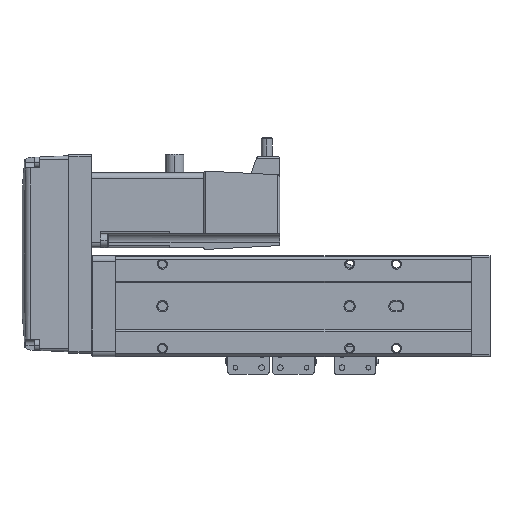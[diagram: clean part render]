
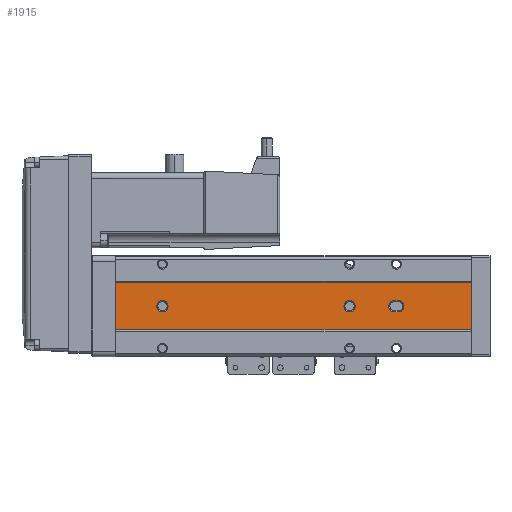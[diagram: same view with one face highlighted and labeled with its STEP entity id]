
A CAD part, front view. The second image highlights one B-rep face of the part: STEP entity #1915.
In plain terms, the highlighted planar face has unit normal (0, -1, 0).
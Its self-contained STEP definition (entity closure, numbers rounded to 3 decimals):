
#3 = AXIS2_PLACEMENT_3D ( 'NONE', #29551, #21387, #12986 ) ;
#64 = CIRCLE ( 'NONE', #4008, 3. ) ;
#631 = ORIENTED_EDGE ( 'NONE', *, *, #10654, .T. ) ;
#677 = CARTESIAN_POINT ( 'NONE',  ( -61.181, -208.497, 190. ) ) ;
#883 = DIRECTION ( 'NONE',  ( 0., 0., -1. ) ) ;
#1683 = CARTESIAN_POINT ( 'NONE',  ( -55.181, -208.497, 41. ) ) ;
#1817 = EDGE_LOOP ( 'NONE', ( #17812, #34451 ) ) ;
#1915 = ADVANCED_FACE ( 'NONE', ( #33026, #11412, #13104, #31272 ), #26135, .F. ) ;
#2218 = DIRECTION ( 'NONE',  ( 0., 1., 0. ) ) ;
#2529 = ORIENTED_EDGE ( 'NONE', *, *, #12096, .T. ) ;
#3496 = CARTESIAN_POINT ( 'NONE',  ( -70.681, -208.497, 190. ) ) ;
#3671 = AXIS2_PLACEMENT_3D ( 'NONE', #14022, #19776, #30727 ) ;
#3740 = VERTEX_POINT ( 'NONE', #8410 ) ;
#3901 = DIRECTION ( 'NONE',  ( 0., 0., 1. ) ) ;
#3955 = CIRCLE ( 'NONE', #16321, 3. ) ;
#4008 = AXIS2_PLACEMENT_3D ( 'NONE', #30021, #21237, #7588 ) ;
#4010 = DIRECTION ( 'NONE',  ( 0., 1., 0. ) ) ;
#4220 = EDGE_CURVE ( 'NONE', #4593, #13682, #24618, .T. ) ;
#4593 = VERTEX_POINT ( 'NONE', #35048 ) ;
#4668 = VECTOR ( 'NONE', #883, 1000. ) ;
#4774 = EDGE_LOOP ( 'NONE', ( #631, #12391 ) ) ;
#4899 = ORIENTED_EDGE ( 'NONE', *, *, #12944, .T. ) ;
#4950 = DIRECTION ( 'NONE',  ( 0., 1., 0. ) ) ;
#4968 = VERTEX_POINT ( 'NONE', #3496 ) ;
#5754 = AXIS2_PLACEMENT_3D ( 'NONE', #10060, #2218, #32159 ) ;
#7588 = DIRECTION ( 'NONE',  ( 0., 0., 1. ) ) ;
#8080 = EDGE_LOOP ( 'NONE', ( #24804, #20461, #18492, #4899 ) ) ;
#8410 = CARTESIAN_POINT ( 'NONE',  ( -45.681, -208.497, 190. ) ) ;
#8480 = DIRECTION ( 'NONE',  ( 0., 0., -1. ) ) ;
#8787 = CARTESIAN_POINT ( 'NONE',  ( -45.681, -208.497, 0. ) ) ;
#9439 = DIRECTION ( 'NONE',  ( 0., 0., 1. ) ) ;
#9462 = CIRCLE ( 'NONE', #5754, 3. ) ;
#9959 = DIRECTION ( 'NONE',  ( 0., 0., -1. ) ) ;
#10057 = CARTESIAN_POINT ( 'NONE',  ( -45.681, -208.497, 190. ) ) ;
#10060 = CARTESIAN_POINT ( 'NONE',  ( -58.181, -208.497, 39. ) ) ;
#10197 = VERTEX_POINT ( 'NONE', #21916 ) ;
#10654 = EDGE_CURVE ( 'NONE', #10197, #26654, #25378, .T. ) ;
#10674 = AXIS2_PLACEMENT_3D ( 'NONE', #18477, #4950, #31996 ) ;
#10780 = CARTESIAN_POINT ( 'NONE',  ( -70.681, -208.497, 0. ) ) ;
#10933 = EDGE_CURVE ( 'NONE', #3740, #13682, #34101, .T. ) ;
#11412 = FACE_BOUND ( 'NONE', #1817, .T. ) ;
#11705 = EDGE_CURVE ( 'NONE', #24990, #33212, #16196, .T. ) ;
#12066 = DIRECTION ( 'NONE',  ( 0., 1., 0. ) ) ;
#12096 = EDGE_CURVE ( 'NONE', #33212, #28746, #29219, .T. ) ;
#12391 = ORIENTED_EDGE ( 'NONE', *, *, #17855, .T. ) ;
#12432 = VERTEX_POINT ( 'NONE', #13193 ) ;
#12944 = EDGE_CURVE ( 'NONE', #4968, #4593, #15388, .T. ) ;
#12986 = DIRECTION ( 'NONE',  ( 0., 0., 1. ) ) ;
#13104 = FACE_BOUND ( 'NONE', #24194, .T. ) ;
#13193 = CARTESIAN_POINT ( 'NONE',  ( -58.181, -208.497, 62. ) ) ;
#13682 = VERTEX_POINT ( 'NONE', #8787 ) ;
#13899 = AXIS2_PLACEMENT_3D ( 'NONE', #23459, #4010, #9439 ) ;
#13992 = CARTESIAN_POINT ( 'NONE',  ( -58.181, -208.497, 65. ) ) ;
#14022 = CARTESIAN_POINT ( 'NONE',  ( -58.181, -208.497, 65. ) ) ;
#14512 = VERTEX_POINT ( 'NONE', #25492 ) ;
#15388 = LINE ( 'NONE', #25945, #4668 ) ;
#16196 = LINE ( 'NONE', #16338, #24437 ) ;
#16293 = CARTESIAN_POINT ( 'NONE',  ( -61.181, -208.497, 39. ) ) ;
#16321 = AXIS2_PLACEMENT_3D ( 'NONE', #28587, #12066, #3901 ) ;
#16338 = CARTESIAN_POINT ( 'NONE',  ( -55.181, -208.497, 190. ) ) ;
#16484 = DIRECTION ( 'NONE',  ( 1., 0., 0. ) ) ;
#16576 = EDGE_CURVE ( 'NONE', #12432, #24794, #32481, .T. ) ;
#16779 = DIRECTION ( 'NONE',  ( 0., 0., 1. ) ) ;
#16842 = VECTOR ( 'NONE', #16484, 1000. ) ;
#17191 = VECTOR ( 'NONE', #32981, 1000. ) ;
#17666 = EDGE_CURVE ( 'NONE', #24794, #12432, #21121, .T. ) ;
#17812 = ORIENTED_EDGE ( 'NONE', *, *, #16576, .T. ) ;
#17855 = EDGE_CURVE ( 'NONE', #26654, #10197, #3955, .T. ) ;
#18295 = EDGE_CURVE ( 'NONE', #4968, #3740, #35009, .T. ) ;
#18477 = CARTESIAN_POINT ( 'NONE',  ( -58.181, -208.497, 39. ) ) ;
#18492 = ORIENTED_EDGE ( 'NONE', *, *, #18295, .F. ) ;
#18996 = CARTESIAN_POINT ( 'NONE',  ( -55.181, -208.497, 39. ) ) ;
#19776 = DIRECTION ( 'NONE',  ( 0., 1., 0. ) ) ;
#20461 = ORIENTED_EDGE ( 'NONE', *, *, #10933, .F. ) ;
#20558 = CARTESIAN_POINT ( 'NONE',  ( -58.181, -208.497, 36. ) ) ;
#20712 = AXIS2_PLACEMENT_3D ( 'NONE', #13992, #24701, #25058 ) ;
#21121 = CIRCLE ( 'NONE', #20712, 3. ) ;
#21237 = DIRECTION ( 'NONE',  ( 0., 1., 0. ) ) ;
#21387 = DIRECTION ( 'NONE',  ( 0., 1., 0. ) ) ;
#21766 = LINE ( 'NONE', #677, #22645 ) ;
#21834 = CARTESIAN_POINT ( 'NONE',  ( -58.181, -208.497, 168. ) ) ;
#21916 = CARTESIAN_POINT ( 'NONE',  ( -58.181, -208.497, 162. ) ) ;
#22310 = VECTOR ( 'NONE', #9959, 1000. ) ;
#22645 = VECTOR ( 'NONE', #16779, 1000. ) ;
#23459 = CARTESIAN_POINT ( 'NONE',  ( -70.681, -208.497, 190. ) ) ;
#24194 = EDGE_LOOP ( 'NONE', ( #25349, #2529, #29768, #26110, #32815 ) ) ;
#24437 = VECTOR ( 'NONE', #8480, 1000. ) ;
#24618 = LINE ( 'NONE', #10780, #16842 ) ;
#24701 = DIRECTION ( 'NONE',  ( 0., 1., 0. ) ) ;
#24794 = VERTEX_POINT ( 'NONE', #34201 ) ;
#24804 = ORIENTED_EDGE ( 'NONE', *, *, #4220, .T. ) ;
#24990 = VERTEX_POINT ( 'NONE', #1683 ) ;
#25058 = DIRECTION ( 'NONE',  ( 0., 0., 1. ) ) ;
#25348 = EDGE_CURVE ( 'NONE', #28746, #29533, #9462, .T. ) ;
#25349 = ORIENTED_EDGE ( 'NONE', *, *, #11705, .T. ) ;
#25378 = CIRCLE ( 'NONE', #3, 3. ) ;
#25492 = CARTESIAN_POINT ( 'NONE',  ( -61.181, -208.497, 41. ) ) ;
#25945 = CARTESIAN_POINT ( 'NONE',  ( -70.681, -208.497, 190. ) ) ;
#26110 = ORIENTED_EDGE ( 'NONE', *, *, #26209, .T. ) ;
#26135 = PLANE ( 'NONE',  #13899 ) ;
#26209 = EDGE_CURVE ( 'NONE', #29533, #14512, #21766, .T. ) ;
#26654 = VERTEX_POINT ( 'NONE', #21834 ) ;
#28587 = CARTESIAN_POINT ( 'NONE',  ( -58.181, -208.497, 165. ) ) ;
#28746 = VERTEX_POINT ( 'NONE', #20558 ) ;
#29219 = CIRCLE ( 'NONE', #10674, 3. ) ;
#29450 = EDGE_CURVE ( 'NONE', #14512, #24990, #64, .T. ) ;
#29533 = VERTEX_POINT ( 'NONE', #16293 ) ;
#29551 = CARTESIAN_POINT ( 'NONE',  ( -58.181, -208.497, 165. ) ) ;
#29768 = ORIENTED_EDGE ( 'NONE', *, *, #25348, .T. ) ;
#30021 = CARTESIAN_POINT ( 'NONE',  ( -58.181, -208.497, 41. ) ) ;
#30661 = CARTESIAN_POINT ( 'NONE',  ( -70.681, -208.497, 190. ) ) ;
#30727 = DIRECTION ( 'NONE',  ( 0., 0., 1. ) ) ;
#31272 = FACE_OUTER_BOUND ( 'NONE', #8080, .T. ) ;
#31996 = DIRECTION ( 'NONE',  ( 0., 0., 1. ) ) ;
#32159 = DIRECTION ( 'NONE',  ( 0., 0., 1. ) ) ;
#32481 = CIRCLE ( 'NONE', #3671, 3. ) ;
#32815 = ORIENTED_EDGE ( 'NONE', *, *, #29450, .T. ) ;
#32981 = DIRECTION ( 'NONE',  ( 1., 0., 0. ) ) ;
#33026 = FACE_BOUND ( 'NONE', #4774, .T. ) ;
#33212 = VERTEX_POINT ( 'NONE', #18996 ) ;
#34101 = LINE ( 'NONE', #10057, #22310 ) ;
#34201 = CARTESIAN_POINT ( 'NONE',  ( -58.181, -208.497, 68. ) ) ;
#34451 = ORIENTED_EDGE ( 'NONE', *, *, #17666, .T. ) ;
#35009 = LINE ( 'NONE', #30661, #17191 ) ;
#35048 = CARTESIAN_POINT ( 'NONE',  ( -70.681, -208.497, 0. ) ) ;
